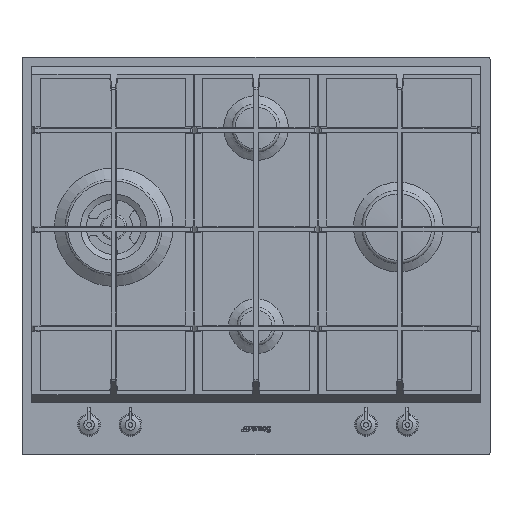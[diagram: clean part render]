
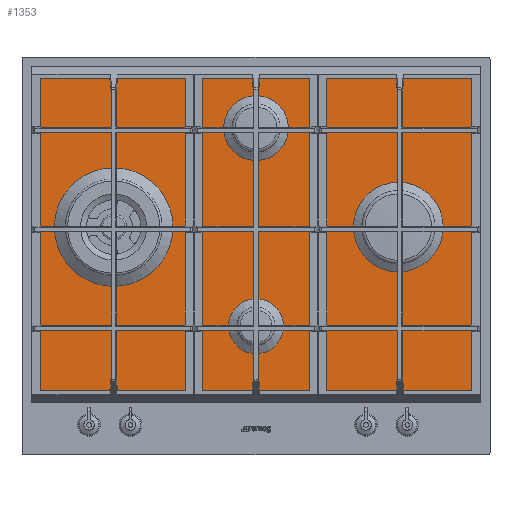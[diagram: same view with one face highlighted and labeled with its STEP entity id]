
A CAD part, top view. The second image highlights one B-rep face of the part: STEP entity #1353.
In plain terms, the highlighted planar face has unit normal (0, 0, 1).
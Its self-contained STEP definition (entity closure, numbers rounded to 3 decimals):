
#649=FACE_BOUND('',#2767,.T.);
#650=FACE_BOUND('',#2768,.T.);
#651=FACE_BOUND('',#2769,.T.);
#652=FACE_BOUND('',#2770,.T.);
#653=FACE_BOUND('',#2771,.T.);
#937=CIRCLE('',#10185,15.);
#938=CIRCLE('',#10186,15.);
#939=CIRCLE('',#10187,15.);
#940=CIRCLE('',#10188,15.);
#1353=ADVANCED_FACE('',(#649,#650,#651,#652,#653),#1886,.F.);
#1886=PLANE('',#10189);
#2767=EDGE_LOOP('',(#3975));
#2768=EDGE_LOOP('',(#3976));
#2769=EDGE_LOOP('',(#3977));
#2770=EDGE_LOOP('',(#3978));
#2771=EDGE_LOOP('',(#3979,#3980,#3981,#3982));
#3975=ORIENTED_EDGE('',*,*,#7136,.F.);
#3976=ORIENTED_EDGE('',*,*,#7137,.F.);
#3977=ORIENTED_EDGE('',*,*,#7138,.F.);
#3978=ORIENTED_EDGE('',*,*,#7139,.F.);
#3979=ORIENTED_EDGE('',*,*,#7129,.T.);
#3980=ORIENTED_EDGE('',*,*,#7135,.T.);
#3981=ORIENTED_EDGE('',*,*,#7133,.T.);
#3982=ORIENTED_EDGE('',*,*,#7131,.T.);
#6135=VERTEX_POINT('',#14308);
#6136=VERTEX_POINT('',#14310);
#6137=VERTEX_POINT('',#14314);
#6138=VERTEX_POINT('',#14318);
#6139=VERTEX_POINT('',#14324);
#6140=VERTEX_POINT('',#14326);
#6141=VERTEX_POINT('',#14328);
#6142=VERTEX_POINT('',#14330);
#7129=EDGE_CURVE('',#6136,#6135,#8347,.T.);
#7131=EDGE_CURVE('',#6137,#6136,#8349,.T.);
#7133=EDGE_CURVE('',#6138,#6137,#8351,.T.);
#7135=EDGE_CURVE('',#6135,#6138,#8353,.T.);
#7136=EDGE_CURVE('',#6139,#6139,#937,.T.);
#7137=EDGE_CURVE('',#6140,#6140,#938,.T.);
#7138=EDGE_CURVE('',#6141,#6141,#939,.T.);
#7139=EDGE_CURVE('',#6142,#6142,#940,.T.);
#8347=LINE('',#14309,#9281);
#8349=LINE('',#14313,#9283);
#8351=LINE('',#14317,#9285);
#8353=LINE('',#14321,#9287);
#9281=VECTOR('',#11549,1.);
#9283=VECTOR('',#11553,1.);
#9285=VECTOR('',#11557,1.);
#9287=VECTOR('',#11561,1.);
#10185=AXIS2_PLACEMENT_3D('',#14323,#11564,#11565);
#10186=AXIS2_PLACEMENT_3D('',#14325,#11566,#11567);
#10187=AXIS2_PLACEMENT_3D('',#14327,#11568,#11569);
#10188=AXIS2_PLACEMENT_3D('',#14329,#11570,#11571);
#10189=AXIS2_PLACEMENT_3D('',#14331,#11572,#11573);
#11549=DIRECTION('',(0.,-1.,0.));
#11553=DIRECTION('',(-1.,0.,0.));
#11557=DIRECTION('',(0.,1.,0.));
#11561=DIRECTION('',(1.,0.,0.));
#11564=DIRECTION('',(0.,0.,1.));
#11565=DIRECTION('',(1.,0.,0.));
#11566=DIRECTION('',(0.,0.,1.));
#11567=DIRECTION('',(1.,0.,0.));
#11568=DIRECTION('',(0.,0.,1.));
#11569=DIRECTION('',(1.,0.,0.));
#11570=DIRECTION('',(0.,0.,1.));
#11571=DIRECTION('',(1.,0.,0.));
#11572=DIRECTION('',(0.,0.,-1.));
#11573=DIRECTION('',(-1.,0.,0.));
#14308=CARTESIAN_POINT('',(-288.,-179.1,3.));
#14309=CARTESIAN_POINT('',(-288.,-179.1,3.));
#14310=CARTESIAN_POINT('',(-288.,251.9,3.));
#14313=CARTESIAN_POINT('',(-288.,251.9,3.));
#14314=CARTESIAN_POINT('',(288.,251.9,3.));
#14317=CARTESIAN_POINT('',(288.,251.9,3.));
#14318=CARTESIAN_POINT('',(288.,-179.1,3.));
#14321=CARTESIAN_POINT('',(288.,-179.1,3.));
#14323=CARTESIAN_POINT('',(-182.5,45.9,3.));
#14324=CARTESIAN_POINT('',(-167.5,45.9,3.));
#14325=CARTESIAN_POINT('',(0.,-81.1,3.));
#14326=CARTESIAN_POINT('',(15.,-81.1,3.));
#14327=CARTESIAN_POINT('',(0.,172.9,3.));
#14328=CARTESIAN_POINT('',(15.,172.9,3.));
#14329=CARTESIAN_POINT('',(182.5,45.9,3.));
#14330=CARTESIAN_POINT('',(197.5,45.9,3.));
#14331=CARTESIAN_POINT('',(0.,8.9,3.));
